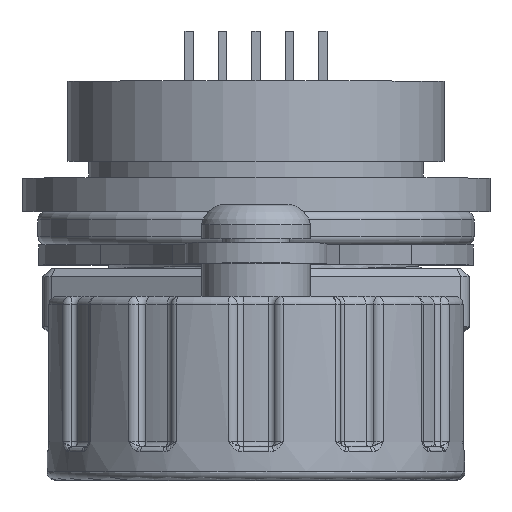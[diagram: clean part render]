
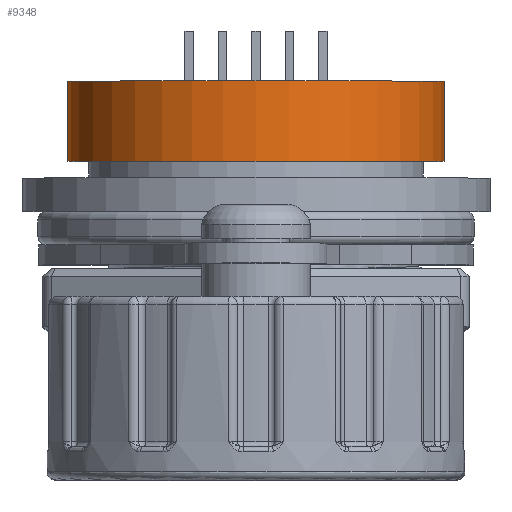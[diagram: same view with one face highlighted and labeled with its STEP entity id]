
A CAD part, top view. The second image highlights one B-rep face of the part: STEP entity #9348.
In plain terms, the highlighted cylindrical face has radius 11.25 mm (diameter 22.5 mm), a full revolution.
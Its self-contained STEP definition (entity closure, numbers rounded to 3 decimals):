
#734=CYLINDRICAL_SURFACE('',#28033,11.25);
#9348=ADVANCED_FACE('',(#10498,#10499),#734,.T.);
#10498=FACE_BOUND('',#11724,.T.);
#10499=FACE_BOUND('',#11725,.T.);
#11724=EDGE_LOOP('',(#18122));
#11725=EDGE_LOOP('',(#18123));
#18122=ORIENTED_EDGE('',*,*,#25325,.F.);
#18123=ORIENTED_EDGE('',*,*,#25324,.T.);
#21846=VERTEX_POINT('',#76742);
#21847=VERTEX_POINT('',#76745);
#25324=EDGE_CURVE('',#21846,#21846,#26438,.T.);
#25325=EDGE_CURVE('',#21847,#21847,#26439,.T.);
#26438=CIRCLE('',#28030,11.25);
#26439=CIRCLE('',#28032,11.25);
#28030=AXIS2_PLACEMENT_3D('',#76741,#33549,#33550);
#28032=AXIS2_PLACEMENT_3D('',#76744,#33553,#33554);
#28033=AXIS2_PLACEMENT_3D('',#76746,#33555,#33556);
#33549=DIRECTION('',(0.,-1.,0.));
#33550=DIRECTION('',(1.,0.,0.));
#33553=DIRECTION('',(0.,-1.,0.));
#33554=DIRECTION('',(0.,0.,1.));
#33555=DIRECTION('',(0.,-1.,0.));
#33556=DIRECTION('',(1.,0.,0.));
#76741=CARTESIAN_POINT('',(110.,407.3,-0.5));
#76742=CARTESIAN_POINT('',(121.25,407.3,-0.5));
#76744=CARTESIAN_POINT('',(110.,402.5,-0.5));
#76745=CARTESIAN_POINT('',(110.,402.5,10.75));
#76746=CARTESIAN_POINT('',(110.,407.3,-0.5));
